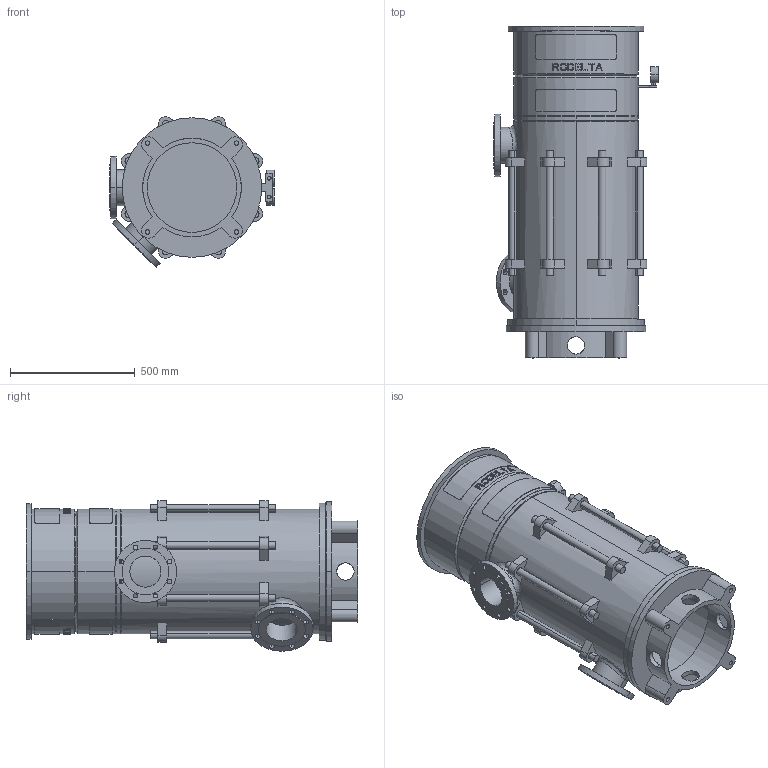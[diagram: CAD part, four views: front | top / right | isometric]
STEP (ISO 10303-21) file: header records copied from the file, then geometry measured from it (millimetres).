
FILE_DESCRIPTION((''),'2;1');
FILE_NAME('LS5_4TR_0GR_ABOVE_30KW','2023-08-08T',('Lyritlocal'),(''),'PRO/ENGINEER BY PARAMETRIC TECHNOLOGY CORPORATION, 2016360','PRO/ENGINEER BY PARAMETRIC TECHNOLOGY CORPORATION, 2016360','');
FILE_SCHEMA(('CONFIG_CONTROL_DESIGN'));
Length unit declared in the file: millimetre
Products named in the file (1): LS5_4TR_0GR_ABOVE_30KW
Bounding box: 660 x 1332 x 603.65 mm (x, y, z)
Volume: 41547221.9 mm3; surface area: 5975806.5 mm2
Topology: 3 solids, 7 shells, 672 faces, 1747 edges, 1158 vertices
Faces by surface type: plane 414, cylinder 242, cone 12, bspline 4
Entity records: 21980 total; most frequent: CARTESIAN_POINT 5536, ORIENTED_EDGE 3478, DIRECTION 3269, EDGE_CURVE 1747, AXIS2_PLACEMENT_3D 1241, VERTEX_POINT 1158, EDGE_LOOP 809, VECTOR 787
